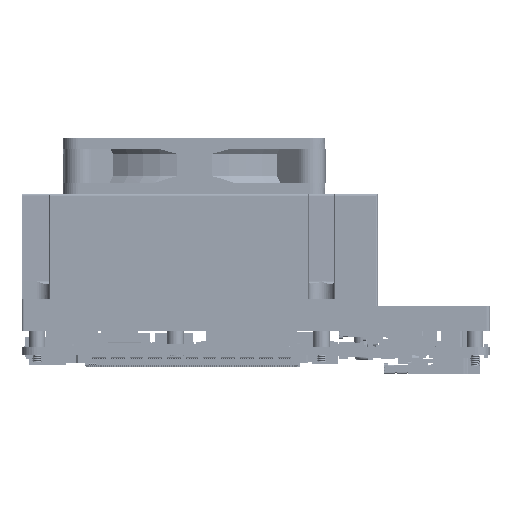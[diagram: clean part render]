
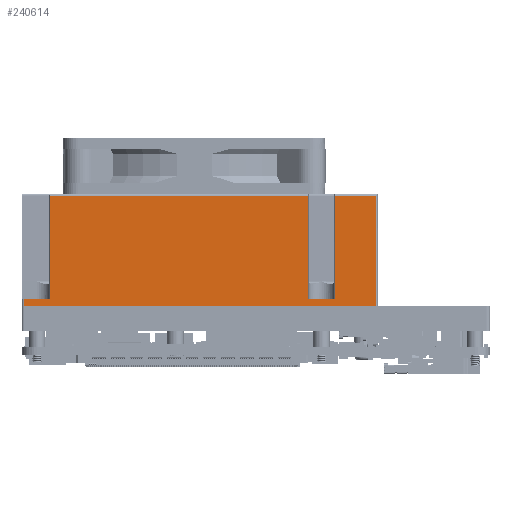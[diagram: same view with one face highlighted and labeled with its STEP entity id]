
A CAD part, front view. The second image highlights one B-rep face of the part: STEP entity #240614.
In plain terms, the highlighted planar face has unit normal (0, -1, 0) as drawn and (0, 0, 1) by its records, which use the part's own axes.
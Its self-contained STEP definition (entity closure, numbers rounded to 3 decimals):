
#236162=DIRECTION('',(0.,-1.,0.));
#236163=VECTOR('',#236162,2.);
#236164=CARTESIAN_POINT('',(-103.18,8.,47.5));
#236165=LINE('',#236164,#236163);
#236166=DIRECTION('',(1.,0.,0.));
#236167=VECTOR('',#236166,7.);
#236168=CARTESIAN_POINT('',(-103.18,8.,47.5));
#236169=LINE('',#236168,#236167);
#236170=DIRECTION('',(0.,-1.,0.));
#236171=VECTOR('',#236170,27.374);
#236172=CARTESIAN_POINT('',(-96.18,35.374,47.5));
#236173=LINE('',#236172,#236171);
#236174=DIRECTION('',(1.,0.,0.));
#236175=VECTOR('',#236174,69.);
#236176=CARTESIAN_POINT('',(-96.18,35.374,47.5));
#236177=LINE('',#236176,#236175);
#236178=DIRECTION('',(0.,-1.,0.));
#236179=VECTOR('',#236178,27.374);
#236180=CARTESIAN_POINT('',(-27.18,35.374,47.5));
#236181=LINE('',#236180,#236179);
#236182=DIRECTION('',(1.,0.,0.));
#236183=VECTOR('',#236182,7.);
#236184=CARTESIAN_POINT('',(-27.18,8.,47.5));
#236185=LINE('',#236184,#236183);
#236186=DIRECTION('',(0.,-1.,0.));
#236187=VECTOR('',#236186,27.374);
#236188=CARTESIAN_POINT('',(-20.18,35.374,47.5));
#236189=LINE('',#236188,#236187);
#236190=DIRECTION('',(1.,0.,0.));
#236191=VECTOR('',#236190,11.);
#236192=CARTESIAN_POINT('',(-20.18,35.374,47.5));
#236193=LINE('',#236192,#236191);
#236194=DIRECTION('',(0.,-1.,0.));
#236195=VECTOR('',#236194,29.374);
#236196=CARTESIAN_POINT('',(-9.18,35.374,47.5));
#236197=LINE('',#236196,#236195);
#236198=DIRECTION('',(1.,0.,0.));
#236199=VECTOR('',#236198,94.);
#236200=CARTESIAN_POINT('',(-103.18,6.,47.5));
#236201=LINE('',#236200,#236199);
#240359=CARTESIAN_POINT('',(-27.18,8.,47.5));
#240360=CARTESIAN_POINT('',(-20.18,8.,47.5));
#240361=VERTEX_POINT('',#240359);
#240362=VERTEX_POINT('',#240360);
#240363=CARTESIAN_POINT('',(-20.18,35.374,47.5));
#240364=VERTEX_POINT('',#240363);
#240365=CARTESIAN_POINT('',(-27.18,35.374,47.5));
#240366=VERTEX_POINT('',#240365);
#240367=CARTESIAN_POINT('',(-96.18,35.374,47.5));
#240368=CARTESIAN_POINT('',(-96.18,8.,47.5));
#240369=VERTEX_POINT('',#240367);
#240370=VERTEX_POINT('',#240368);
#240557=CARTESIAN_POINT('',(-103.18,8.,47.5));
#240558=CARTESIAN_POINT('',(-103.18,6.,47.5));
#240559=VERTEX_POINT('',#240557);
#240560=VERTEX_POINT('',#240558);
#240561=CARTESIAN_POINT('',(-9.18,35.374,47.5));
#240562=CARTESIAN_POINT('',(-9.18,6.,47.5));
#240563=VERTEX_POINT('',#240561);
#240564=VERTEX_POINT('',#240562);
#240587=CARTESIAN_POINT('',(-48.,0.,47.5));
#240588=DIRECTION('',(0.,0.,1.));
#240589=DIRECTION('',(1.,0.,0.));
#240590=AXIS2_PLACEMENT_3D('',#240587,#240588,#240589);
#240591=PLANE('',#240590);
#240593=ORIENTED_EDGE('',*,*,#240592,.F.);
#240595=ORIENTED_EDGE('',*,*,#240594,.T.);
#240597=ORIENTED_EDGE('',*,*,#240596,.F.);
#240599=ORIENTED_EDGE('',*,*,#240598,.T.);
#240601=ORIENTED_EDGE('',*,*,#240600,.T.);
#240603=ORIENTED_EDGE('',*,*,#240602,.T.);
#240605=ORIENTED_EDGE('',*,*,#240604,.F.);
#240607=ORIENTED_EDGE('',*,*,#240606,.T.);
#240609=ORIENTED_EDGE('',*,*,#240608,.T.);
#240611=ORIENTED_EDGE('',*,*,#240610,.F.);
#240612=EDGE_LOOP('',(#240593,#240595,#240597,#240599,#240601,#240603,#240605,
#240607,#240609,#240611));
#240613=FACE_OUTER_BOUND('',#240612,.F.);
#240614=ADVANCED_FACE('',(#240613),#240591,.T.);
#240592=EDGE_CURVE('',#240559,#240560,#236165,.T.);
#240594=EDGE_CURVE('',#240559,#240370,#236169,.T.);
#240596=EDGE_CURVE('',#240369,#240370,#236173,.T.);
#240598=EDGE_CURVE('',#240369,#240366,#236177,.T.);
#240600=EDGE_CURVE('',#240366,#240361,#236181,.T.);
#240602=EDGE_CURVE('',#240361,#240362,#236185,.T.);
#240604=EDGE_CURVE('',#240364,#240362,#236189,.T.);
#240606=EDGE_CURVE('',#240364,#240563,#236193,.T.);
#240608=EDGE_CURVE('',#240563,#240564,#236197,.T.);
#240610=EDGE_CURVE('',#240560,#240564,#236201,.T.);
